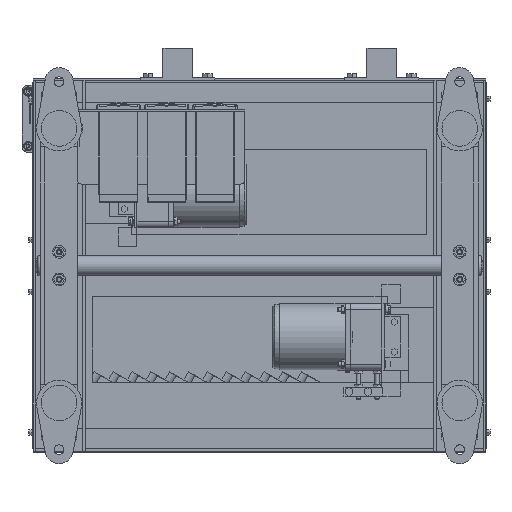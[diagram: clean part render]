
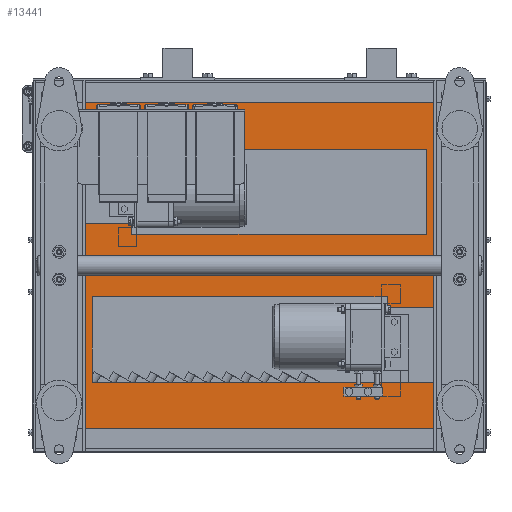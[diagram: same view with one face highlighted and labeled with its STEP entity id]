
A CAD part, front view. The second image highlights one B-rep face of the part: STEP entity #13441.
In plain terms, the highlighted planar face has unit normal (0, -1, 0).
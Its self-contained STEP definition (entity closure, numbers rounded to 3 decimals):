
#66 = CARTESIAN_POINT ( 'NONE',  ( 3., -93., -247. ) ) ;
#365 = DIRECTION ( 'NONE',  ( 1., 0., 0. ) ) ;
#540 = DIRECTION ( 'NONE',  ( 0., 0., 1. ) ) ;
#1161 = LINE ( 'NONE', #10464, #6131 ) ;
#1272 = EDGE_LOOP ( 'NONE', ( #40534, #10922, #6664, #50546, #50305, #51154 ) ) ;
#2242 = ORIENTED_EDGE ( 'NONE', *, *, #14029, .T. ) ;
#2251 = FACE_BOUND ( 'NONE', #26048, .T. ) ;
#2391 = ORIENTED_EDGE ( 'NONE', *, *, #25466, .F. ) ;
#2572 = EDGE_CURVE ( 'NONE', #5892, #14662, #35725, .T. ) ;
#2574 = EDGE_CURVE ( 'NONE', #4775, #35423, #42988, .T. ) ;
#2617 = CARTESIAN_POINT ( 'NONE',  ( 80., -93., -42. ) ) ;
#2834 = LINE ( 'NONE', #32512, #17123 ) ;
#3099 = VECTOR ( 'NONE', #37967, 1000. ) ;
#3260 = EDGE_CURVE ( 'NONE', #39846, #43019, #27006, .T. ) ;
#3772 = EDGE_CURVE ( 'NONE', #7464, #15143, #11421, .T. ) ;
#4158 = LINE ( 'NONE', #2617, #28353 ) ;
#4293 = CARTESIAN_POINT ( 'NONE',  ( 80., -93., -42. ) ) ;
#4353 = ORIENTED_EDGE ( 'NONE', *, *, #36141, .F. ) ;
#4775 = VERTEX_POINT ( 'NONE', #29966 ) ;
#5892 = VERTEX_POINT ( 'NONE', #26314 ) ;
#6040 = EDGE_CURVE ( 'NONE', #35423, #50839, #33023, .T. ) ;
#6131 = VECTOR ( 'NONE', #15053, 1000. ) ;
#6664 = ORIENTED_EDGE ( 'NONE', *, *, #18193, .T. ) ;
#7464 = VERTEX_POINT ( 'NONE', #46012 ) ;
#7614 = VECTOR ( 'NONE', #47148, 1000. ) ;
#8329 = EDGE_CURVE ( 'NONE', #32931, #5892, #43038, .T. ) ;
#8690 = CARTESIAN_POINT ( 'NONE',  ( 40., -93., 157. ) ) ;
#8866 = VECTOR ( 'NONE', #41914, 1000. ) ;
#9998 = VECTOR ( 'NONE', #54601, 1000. ) ;
#10441 = CARTESIAN_POINT ( 'NONE',  ( 530., -93., 157. ) ) ;
#10464 = CARTESIAN_POINT ( 'NONE',  ( 80., -93., -157. ) ) ;
#10683 = CARTESIAN_POINT ( 'NONE',  ( 610., -93., -247. ) ) ;
#10798 = DIRECTION ( 'NONE',  ( 0., 0., 1. ) ) ;
#10922 = ORIENTED_EDGE ( 'NONE', *, *, #27174, .T. ) ;
#11421 = LINE ( 'NONE', #27725, #47025 ) ;
#12173 = LINE ( 'NONE', #53716, #28430 ) ;
#12778 = LINE ( 'NONE', #55209, #26928 ) ;
#13425 = VERTEX_POINT ( 'NONE', #48618 ) ;
#13441 = ADVANCED_FACE ( 'NONE', ( #2251, #49361, #37118 ), #57880, .F. ) ;
#14029 = EDGE_CURVE ( 'NONE', #14902, #32931, #12173, .T. ) ;
#14662 = VERTEX_POINT ( 'NONE', #47438 ) ;
#14902 = VERTEX_POINT ( 'NONE', #48892 ) ;
#15053 = DIRECTION ( 'NONE',  ( -1., 0., 0. ) ) ;
#15143 = VERTEX_POINT ( 'NONE', #47041 ) ;
#16662 = ORIENTED_EDGE ( 'NONE', *, *, #41053, .T. ) ;
#17123 = VECTOR ( 'NONE', #18653, 1000. ) ;
#18193 = EDGE_CURVE ( 'NONE', #13425, #53222, #2834, .T. ) ;
#18653 = DIRECTION ( 'NONE',  ( 0., 0., 1. ) ) ;
#18981 = DIRECTION ( 'NONE',  ( -1., 0., 0. ) ) ;
#18993 = ORIENTED_EDGE ( 'NONE', *, *, #2572, .T. ) ;
#19192 = CARTESIAN_POINT ( 'NONE',  ( 40., -93., 57. ) ) ;
#19401 = AXIS2_PLACEMENT_3D ( 'NONE', #41040, #30990, #40208 ) ;
#19965 = CARTESIAN_POINT ( 'NONE',  ( 133., -93., 42. ) ) ;
#20452 = CARTESIAN_POINT ( 'NONE',  ( 80., -93., -42. ) ) ;
#21193 = LINE ( 'NONE', #10683, #7614 ) ;
#21779 = CARTESIAN_POINT ( 'NONE',  ( 133., -93., 57. ) ) ;
#23830 = EDGE_CURVE ( 'NONE', #44376, #15143, #12778, .T. ) ;
#24448 = VECTOR ( 'NONE', #30834, 1000. ) ;
#25466 = EDGE_CURVE ( 'NONE', #31482, #44376, #55941, .T. ) ;
#25489 = DIRECTION ( 'NONE',  ( 0., 0., -1. ) ) ;
#26048 = EDGE_LOOP ( 'NONE', ( #2242, #45968, #18993, #42081, #26197, #16662 ) ) ;
#26197 = ORIENTED_EDGE ( 'NONE', *, *, #3260, .T. ) ;
#26280 = CARTESIAN_POINT ( 'NONE',  ( 477., -93., -57. ) ) ;
#26314 = CARTESIAN_POINT ( 'NONE',  ( 570., -93., -57. ) ) ;
#26928 = VECTOR ( 'NONE', #365, 1000. ) ;
#27006 = LINE ( 'NONE', #4293, #9998 ) ;
#27174 = EDGE_CURVE ( 'NONE', #32526, #13425, #37215, .T. ) ;
#27288 = EDGE_CURVE ( 'NONE', #14662, #39846, #1161, .T. ) ;
#27725 = CARTESIAN_POINT ( 'NONE',  ( 607., -93., -500000. ) ) ;
#28353 = VECTOR ( 'NONE', #57458, 1000. ) ;
#28430 = VECTOR ( 'NONE', #25489, 1000. ) ;
#28650 = DIRECTION ( 'NONE',  ( 1., 0., 0. ) ) ;
#29342 = CARTESIAN_POINT ( 'NONE',  ( 3., -93., -500000. ) ) ;
#29584 = CARTESIAN_POINT ( 'NONE',  ( 80., -93., -157. ) ) ;
#29966 = CARTESIAN_POINT ( 'NONE',  ( 530., -93., 157. ) ) ;
#30627 = CARTESIAN_POINT ( 'NONE',  ( 570., -93., -57. ) ) ;
#30834 = DIRECTION ( 'NONE',  ( 1., 0., 0. ) ) ;
#30990 = DIRECTION ( 'NONE',  ( 0., 1., 0. ) ) ;
#31482 = VERTEX_POINT ( 'NONE', #66 ) ;
#32512 = CARTESIAN_POINT ( 'NONE',  ( 40., -93., 157. ) ) ;
#32526 = VERTEX_POINT ( 'NONE', #21779 ) ;
#32931 = VERTEX_POINT ( 'NONE', #26280 ) ;
#33023 = LINE ( 'NONE', #33259, #8866 ) ;
#33259 = CARTESIAN_POINT ( 'NONE',  ( 530., -93., 42. ) ) ;
#33512 = DIRECTION ( 'NONE',  ( 0., 0., -1. ) ) ;
#35423 = VERTEX_POINT ( 'NONE', #55569 ) ;
#35725 = LINE ( 'NONE', #47376, #48006 ) ;
#36139 = VECTOR ( 'NONE', #10798, 1000. ) ;
#36141 = EDGE_CURVE ( 'NONE', #7464, #31482, #21193, .T. ) ;
#37118 = FACE_OUTER_BOUND ( 'NONE', #54266, .T. ) ;
#37215 = LINE ( 'NONE', #19192, #55048 ) ;
#37967 = DIRECTION ( 'NONE',  ( 0., 0., 1. ) ) ;
#38510 = CARTESIAN_POINT ( 'NONE',  ( 530., -93., 157. ) ) ;
#39846 = VERTEX_POINT ( 'NONE', #29584 ) ;
#40208 = DIRECTION ( 'NONE',  ( -1., 0., 0. ) ) ;
#40455 = LINE ( 'NONE', #56425, #36139 ) ;
#40534 = ORIENTED_EDGE ( 'NONE', *, *, #58167, .T. ) ;
#41040 = CARTESIAN_POINT ( 'NONE',  ( 610., -93., -500000. ) ) ;
#41053 = EDGE_CURVE ( 'NONE', #43019, #14902, #4158, .T. ) ;
#41914 = DIRECTION ( 'NONE',  ( -1., 0., 0. ) ) ;
#42081 = ORIENTED_EDGE ( 'NONE', *, *, #27288, .T. ) ;
#42988 = LINE ( 'NONE', #38510, #49422 ) ;
#43019 = VERTEX_POINT ( 'NONE', #20452 ) ;
#43038 = LINE ( 'NONE', #30627, #24448 ) ;
#44080 = ORIENTED_EDGE ( 'NONE', *, *, #3772, .T. ) ;
#44376 = VERTEX_POINT ( 'NONE', #53843 ) ;
#45968 = ORIENTED_EDGE ( 'NONE', *, *, #8329, .T. ) ;
#46012 = CARTESIAN_POINT ( 'NONE',  ( 607., -93., -247. ) ) ;
#46196 = LINE ( 'NONE', #10441, #57657 ) ;
#47025 = VECTOR ( 'NONE', #540, 1000. ) ;
#47041 = CARTESIAN_POINT ( 'NONE',  ( 607., -93., 247. ) ) ;
#47148 = DIRECTION ( 'NONE',  ( -1., 0., 0. ) ) ;
#47376 = CARTESIAN_POINT ( 'NONE',  ( 570., -93., -57. ) ) ;
#47438 = CARTESIAN_POINT ( 'NONE',  ( 570., -93., -157. ) ) ;
#48006 = VECTOR ( 'NONE', #57130, 1000. ) ;
#48618 = CARTESIAN_POINT ( 'NONE',  ( 40., -93., 57. ) ) ;
#48881 = ORIENTED_EDGE ( 'NONE', *, *, #23830, .F. ) ;
#48892 = CARTESIAN_POINT ( 'NONE',  ( 477., -93., -42. ) ) ;
#49361 = FACE_BOUND ( 'NONE', #1272, .T. ) ;
#49422 = VECTOR ( 'NONE', #33512, 1000. ) ;
#50305 = ORIENTED_EDGE ( 'NONE', *, *, #2574, .T. ) ;
#50546 = ORIENTED_EDGE ( 'NONE', *, *, #55874, .T. ) ;
#50839 = VERTEX_POINT ( 'NONE', #19965 ) ;
#51154 = ORIENTED_EDGE ( 'NONE', *, *, #6040, .T. ) ;
#53222 = VERTEX_POINT ( 'NONE', #8690 ) ;
#53716 = CARTESIAN_POINT ( 'NONE',  ( 477., -93., -57. ) ) ;
#53843 = CARTESIAN_POINT ( 'NONE',  ( 3., -93., 247. ) ) ;
#54266 = EDGE_LOOP ( 'NONE', ( #44080, #48881, #2391, #4353 ) ) ;
#54601 = DIRECTION ( 'NONE',  ( 0., 0., 1. ) ) ;
#55048 = VECTOR ( 'NONE', #18981, 1000. ) ;
#55209 = CARTESIAN_POINT ( 'NONE',  ( 610., -93., 247. ) ) ;
#55569 = CARTESIAN_POINT ( 'NONE',  ( 530., -93., 42. ) ) ;
#55874 = EDGE_CURVE ( 'NONE', #53222, #4775, #46196, .T. ) ;
#55941 = LINE ( 'NONE', #29342, #3099 ) ;
#56425 = CARTESIAN_POINT ( 'NONE',  ( 133., -93., 57. ) ) ;
#57130 = DIRECTION ( 'NONE',  ( 0., 0., -1. ) ) ;
#57458 = DIRECTION ( 'NONE',  ( 1., 0., 0. ) ) ;
#57657 = VECTOR ( 'NONE', #28650, 1000. ) ;
#57880 = PLANE ( 'NONE',  #19401 ) ;
#58167 = EDGE_CURVE ( 'NONE', #50839, #32526, #40455, .T. ) ;
